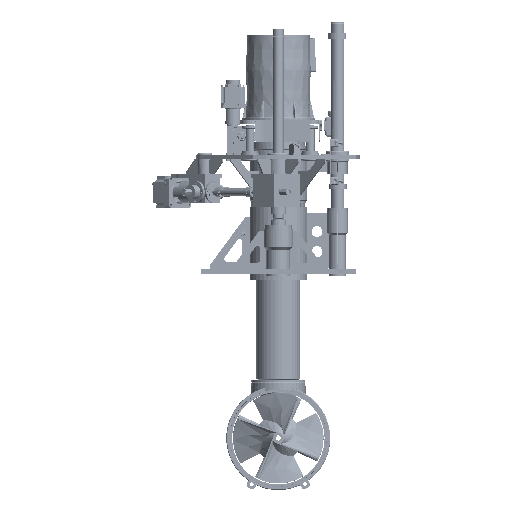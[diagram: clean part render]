
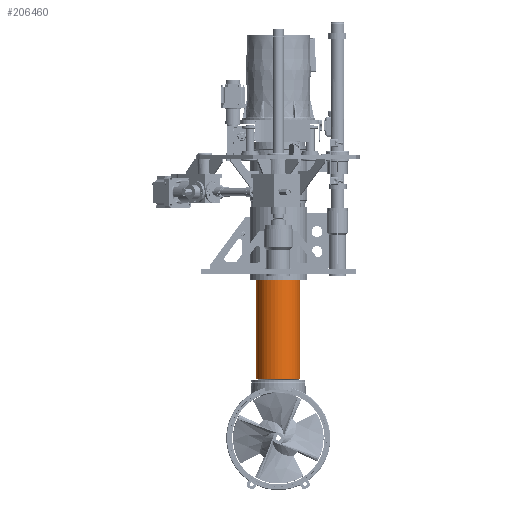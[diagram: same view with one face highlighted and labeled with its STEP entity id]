
A CAD part, front view. The second image highlights one B-rep face of the part: STEP entity #206460.
In plain terms, the highlighted cylindrical face has radius 120 mm (diameter 240 mm), a full revolution.
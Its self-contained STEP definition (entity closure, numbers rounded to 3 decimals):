
#6014=CYLINDRICAL_SURFACE('',#222200,120.);
#16209=FACE_OUTER_BOUND('',#27697,.T.);
#27697=EDGE_LOOP('',(#167142,#167143,#167144,#167145,#167146));
#39569=CIRCLE('',#222195,120.);
#39574=CIRCLE('',#222201,120.);
#39575=CIRCLE('',#222202,120.);
#54850=LINE('',#373507,#71250);
#71250=VECTOR('',#266367,120.);
#89360=VERTEX_POINT('',#373498);
#89362=VERTEX_POINT('',#373506);
#89363=VERTEX_POINT('',#373508);
#116113=EDGE_CURVE('',#89360,#89360,#39569,.T.);
#116118=EDGE_CURVE('',#89360,#89362,#54850,.T.);
#116119=EDGE_CURVE('',#89363,#89362,#39574,.T.);
#116120=EDGE_CURVE('',#89362,#89363,#39575,.T.);
#167142=ORIENTED_EDGE('',*,*,#116113,.F.);
#167143=ORIENTED_EDGE('',*,*,#116118,.T.);
#167144=ORIENTED_EDGE('',*,*,#116119,.F.);
#167145=ORIENTED_EDGE('',*,*,#116120,.F.);
#167146=ORIENTED_EDGE('',*,*,#116118,.F.);
#206460=ADVANCED_FACE('',(#16209),#6014,.T.);
#222195=AXIS2_PLACEMENT_3D('',#373499,#266355,#266356);
#222200=AXIS2_PLACEMENT_3D('',#373505,#266365,#266366);
#222201=AXIS2_PLACEMENT_3D('',#373509,#266368,#266369);
#222202=AXIS2_PLACEMENT_3D('',#373510,#266370,#266371);
#266355=DIRECTION('center_axis',(0.,0.,
1.));
#266356=DIRECTION('ref_axis',(-1.,0.,0.));
#266365=DIRECTION('center_axis',(0.,0.,
1.));
#266366=DIRECTION('ref_axis',(-1.,0.,0.));
#266367=DIRECTION('',(0.,0.,-1.));
#266368=DIRECTION('center_axis',(0.,0.,
-1.));
#266369=DIRECTION('ref_axis',(-1.,0.,0.));
#266370=DIRECTION('center_axis',(0.,0.,
-1.));
#266371=DIRECTION('ref_axis',(-1.,0.,0.));
#373498=CARTESIAN_POINT('',(120.,0.,364.8));
#373499=CARTESIAN_POINT('Origin',(0.,0.,
364.8));
#373505=CARTESIAN_POINT('Origin',(0.,0.,
-598.));
#373506=CARTESIAN_POINT('',(120.,0.,-576.938));
#373507=CARTESIAN_POINT('',(120.,0.,-598.));
#373508=CARTESIAN_POINT('',(0.,-120.,-576.938));
#373509=CARTESIAN_POINT('Origin',(0.,0.,
-576.938));
#373510=CARTESIAN_POINT('Origin',(0.,0.,
-576.938));
